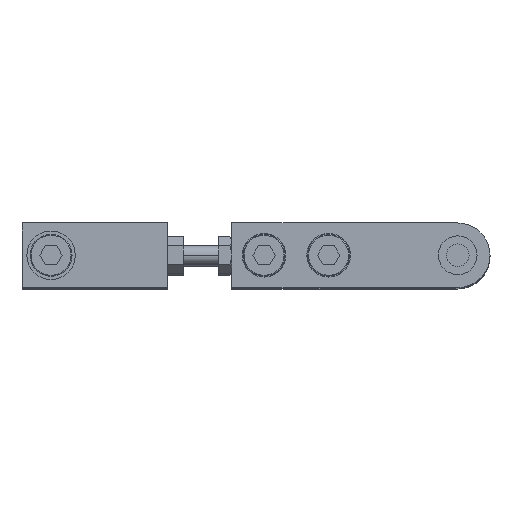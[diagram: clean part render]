
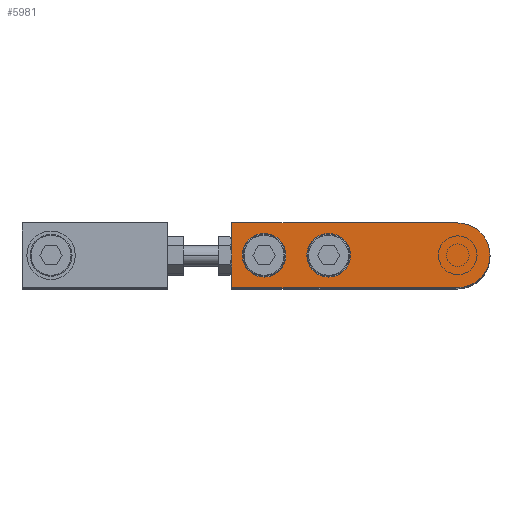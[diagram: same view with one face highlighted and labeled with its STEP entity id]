
A CAD part, top view. The second image highlights one B-rep face of the part: STEP entity #5981.
In plain terms, the highlighted planar face has unit normal (0, 0, 1) as drawn and (0, 0, -1) by its records, which use the part's own axes.
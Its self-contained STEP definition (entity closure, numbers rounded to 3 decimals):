
#166 = CIRCLE ( 'NONE', #3952, 6.75 ) ;
#439 = EDGE_CURVE ( 'NONE', #2494, #1681, #1025, .T. ) ;
#462 = VECTOR ( 'NONE', #6922, 1000. ) ;
#540 = FACE_BOUND ( 'NONE', #6447, .T. ) ;
#598 = CARTESIAN_POINT ( 'NONE',  ( 60., 0., -5. ) ) ;
#601 = DIRECTION ( 'NONE',  ( 1., 0., 0. ) ) ;
#690 = DIRECTION ( 'NONE',  ( -1., 0., 0. ) ) ;
#723 = FACE_BOUND ( 'NONE', #3507, .T. ) ;
#871 = VERTEX_POINT ( 'NONE', #5641 ) ;
#1025 = CIRCLE ( 'NONE', #6226, 10. ) ;
#1027 = CARTESIAN_POINT ( 'NONE',  ( 70., 10., -5. ) ) ;
#1095 = DIRECTION ( 'NONE',  ( 0., 0., 1. ) ) ;
#1163 = CIRCLE ( 'NONE', #4399, 6.75 ) ;
#1386 = EDGE_CURVE ( 'NONE', #1676, #2494, #2649, .T. ) ;
#1424 = EDGE_CURVE ( 'NONE', #1586, #6259, #3674, .T. ) ;
#1586 = VERTEX_POINT ( 'NONE', #2889 ) ;
#1593 = ORIENTED_EDGE ( 'NONE', *, *, #1424, .F. ) ;
#1676 = VERTEX_POINT ( 'NONE', #1791 ) ;
#1681 = VERTEX_POINT ( 'NONE', #3566 ) ;
#1791 = CARTESIAN_POINT ( 'NONE',  ( 70., 10., -5. ) ) ;
#1944 = CIRCLE ( 'NONE', #4354, 6.75 ) ;
#2111 = DIRECTION ( 'NONE',  ( -1., 0., 0. ) ) ;
#2182 = EDGE_LOOP ( 'NONE', ( #5730, #3287, #5728, #5445, #4826 ) ) ;
#2368 = EDGE_CURVE ( 'NONE', #1681, #871, #7414, .T. ) ;
#2438 = DIRECTION ( 'NONE',  ( 0., 0., -1. ) ) ;
#2469 = LINE ( 'NONE', #1027, #462 ) ;
#2494 = VERTEX_POINT ( 'NONE', #5141 ) ;
#2649 = LINE ( 'NONE', #3774, #5693 ) ;
#2799 = CARTESIAN_POINT ( 'NONE',  ( 0., -10., -5. ) ) ;
#2819 = EDGE_CURVE ( 'NONE', #7400, #5989, #1163, .T. ) ;
#2827 = CARTESIAN_POINT ( 'NONE',  ( 70., -10., -5. ) ) ;
#2889 = CARTESIAN_POINT ( 'NONE',  ( 46.75, 0., -5. ) ) ;
#2899 = ORIENTED_EDGE ( 'NONE', *, *, #4719, .F. ) ;
#3069 = DIRECTION ( 'NONE',  ( 0., 0., -1. ) ) ;
#3239 = ORIENTED_EDGE ( 'NONE', *, *, #2819, .F. ) ;
#3265 = ORIENTED_EDGE ( 'NONE', *, *, #3485, .F. ) ;
#3287 = ORIENTED_EDGE ( 'NONE', *, *, #1386, .F. ) ;
#3306 = CARTESIAN_POINT ( 'NONE',  ( 40., 0., -5. ) ) ;
#3362 = DIRECTION ( 'NONE',  ( 0., 0., -1. ) ) ;
#3485 = EDGE_CURVE ( 'NONE', #6259, #1586, #1944, .T. ) ;
#3507 = EDGE_LOOP ( 'NONE', ( #3239, #2899 ) ) ;
#3566 = CARTESIAN_POINT ( 'NONE',  ( -10., 0., -5. ) ) ;
#3630 = CARTESIAN_POINT ( 'NONE',  ( 60., 0., -5. ) ) ;
#3674 = CIRCLE ( 'NONE', #6084, 6.75 ) ;
#3718 = AXIS2_PLACEMENT_3D ( 'NONE', #3836, #4378, #7263 ) ;
#3774 = CARTESIAN_POINT ( 'NONE',  ( 0., 10., -5. ) ) ;
#3836 = CARTESIAN_POINT ( 'NONE',  ( 0., 0., -5. ) ) ;
#3952 = AXIS2_PLACEMENT_3D ( 'NONE', #3630, #3069, #690 ) ;
#4042 = CARTESIAN_POINT ( 'NONE',  ( 0., 0., -5. ) ) ;
#4099 = VECTOR ( 'NONE', #5184, 1000. ) ;
#4294 = CARTESIAN_POINT ( 'NONE',  ( 53.25, 0., -5. ) ) ;
#4354 = AXIS2_PLACEMENT_3D ( 'NONE', #3306, #5624, #2111 ) ;
#4364 = DIRECTION ( 'NONE',  ( -1., 0., 0. ) ) ;
#4378 = DIRECTION ( 'NONE',  ( 0., 0., 1. ) ) ;
#4379 = EDGE_CURVE ( 'NONE', #6078, #1676, #2469, .T. ) ;
#4399 = AXIS2_PLACEMENT_3D ( 'NONE', #598, #2438, #4707 ) ;
#4516 = DIRECTION ( 'NONE',  ( -1., 0., 0. ) ) ;
#4707 = DIRECTION ( 'NONE',  ( -1., 0., 0. ) ) ;
#4719 = EDGE_CURVE ( 'NONE', #5989, #7400, #166, .T. ) ;
#4826 = ORIENTED_EDGE ( 'NONE', *, *, #2368, .F. ) ;
#4854 = DIRECTION ( 'NONE',  ( 1., 0., 0. ) ) ;
#4961 = CARTESIAN_POINT ( 'NONE',  ( 66.75, 0., -5. ) ) ;
#5141 = CARTESIAN_POINT ( 'NONE',  ( 0., 10., -5. ) ) ;
#5184 = DIRECTION ( 'NONE',  ( 1., 0., 0. ) ) ;
#5445 = ORIENTED_EDGE ( 'NONE', *, *, #7138, .F. ) ;
#5624 = DIRECTION ( 'NONE',  ( 0., 0., -1. ) ) ;
#5641 = CARTESIAN_POINT ( 'NONE',  ( 0., -10., -5. ) ) ;
#5673 = LINE ( 'NONE', #2799, #4099 ) ;
#5693 = VECTOR ( 'NONE', #4364, 1000. ) ;
#5728 = ORIENTED_EDGE ( 'NONE', *, *, #4379, .F. ) ;
#5730 = ORIENTED_EDGE ( 'NONE', *, *, #439, .F. ) ;
#5932 = CARTESIAN_POINT ( 'NONE',  ( 33.25, 0., -5. ) ) ;
#5969 = AXIS2_PLACEMENT_3D ( 'NONE', #6644, #6584, #4854 ) ;
#5981 = ADVANCED_FACE ( 'NONE', ( #723, #540, #6966 ), #7320, .F. ) ;
#5989 = VERTEX_POINT ( 'NONE', #4961 ) ;
#6078 = VERTEX_POINT ( 'NONE', #2827 ) ;
#6084 = AXIS2_PLACEMENT_3D ( 'NONE', #6877, #3362, #4516 ) ;
#6226 = AXIS2_PLACEMENT_3D ( 'NONE', #4042, #1095, #601 ) ;
#6259 = VERTEX_POINT ( 'NONE', #5932 ) ;
#6447 = EDGE_LOOP ( 'NONE', ( #3265, #1593 ) ) ;
#6584 = DIRECTION ( 'NONE',  ( 0., 0., 1. ) ) ;
#6644 = CARTESIAN_POINT ( 'NONE',  ( 0., 0., -5. ) ) ;
#6877 = CARTESIAN_POINT ( 'NONE',  ( 40., 0., -5. ) ) ;
#6922 = DIRECTION ( 'NONE',  ( 0., 1., 0. ) ) ;
#6966 = FACE_OUTER_BOUND ( 'NONE', #2182, .T. ) ;
#7138 = EDGE_CURVE ( 'NONE', #871, #6078, #5673, .T. ) ;
#7263 = DIRECTION ( 'NONE',  ( 1., 0., 0. ) ) ;
#7320 = PLANE ( 'NONE',  #3718 ) ;
#7400 = VERTEX_POINT ( 'NONE', #4294 ) ;
#7414 = CIRCLE ( 'NONE', #5969, 10. ) ;
